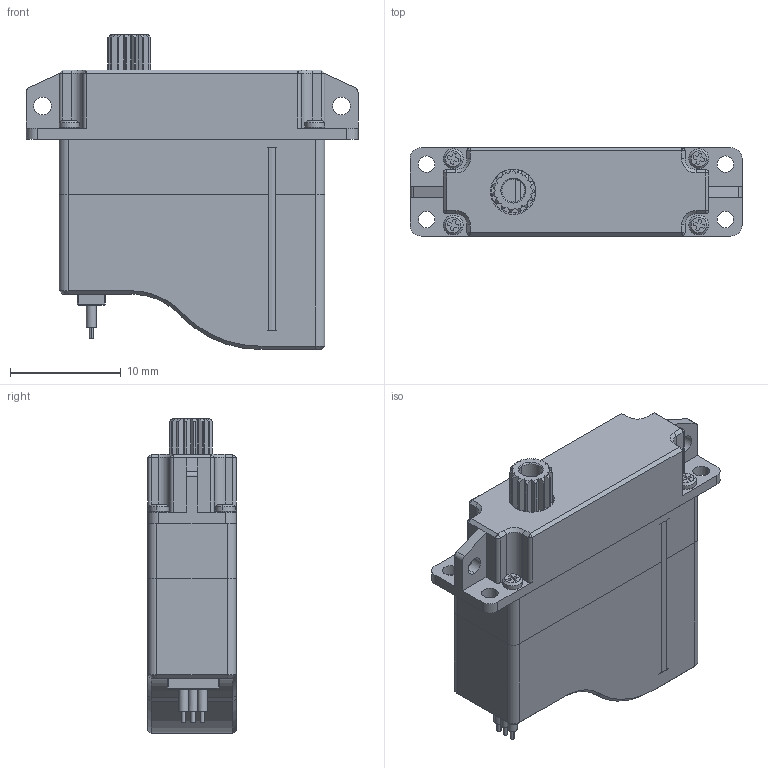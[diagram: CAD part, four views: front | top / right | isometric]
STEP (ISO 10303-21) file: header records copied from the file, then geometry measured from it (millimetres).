
FILE_DESCRIPTION (( 'STEP AP214' ), '1' );
FILE_NAME ('SV08-12_DM_20240803.STEP', '2024-08-05T02:11:43', ( '' ), ( '' ), 'SwSTEP 2.0', 'SolidWorks 2016', '' );
FILE_SCHEMA (( 'AUTOMOTIVE_DESIGN' ));
Length unit declared in the file: millimetre
Products named in the file (1): SV08-12_DM_20240803
Bounding box: 30 x 8 x 28.46 mm (x, y, z)
Surface area: 2768.1 mm2 (no closed solid volume)
Topology: 0 solids, 13 shells, 347 faces, 1061 edges, 700 vertices
Faces by surface type: plane 173, cylinder 120, cone 46, torus 8
Entity records: 15618 total; most frequent: CARTESIAN_POINT 2195, DIRECTION 2061, ORIENTED_EDGE 1881, EDGE_CURVE 1053, VERTEX_POINT 700, AXIS2_PLACEMENT_3D 692, LINE 677, VECTOR 677
